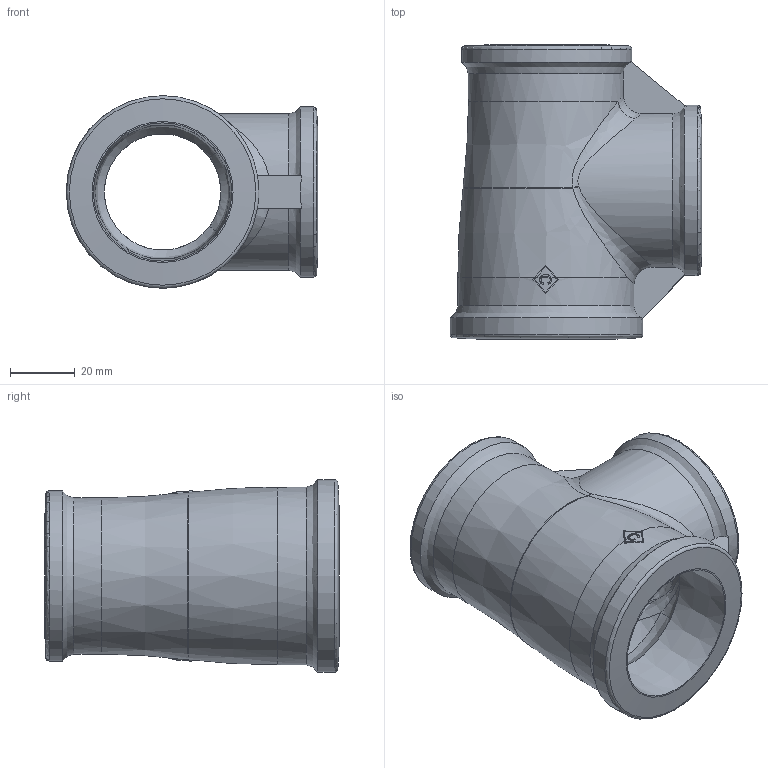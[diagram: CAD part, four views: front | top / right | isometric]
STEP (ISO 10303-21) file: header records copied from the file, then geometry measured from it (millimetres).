
FILE_DESCRIPTION((''),'2;1');
FILE_NAME('P:\Fastrack\53909_CRANE\Crane\Fig.161 Tee\New 1.50 inch\161-1.50x1.25x1.25.stp','2009-09-16T12:47:37',('btaylor'),(''),'Autodesk Inventor 2008','Autodesk Inventor 2008','');
FILE_SCHEMA(('AUTOMOTIVE_DESIGN { 1 0 10303 214 1 1 1 1 }'));
Length unit declared in the file: millimetre
Products named in the file (1): 161-1.50x1.25x1.25
Bounding box: 77.8 x 91 x 59.6 mm (x, y, z)
Volume: 88154.9 mm3; surface area: 35850.5 mm2
Topology: 1 solids, 1 shells, 83 faces, 248 edges, 166 vertices
Faces by surface type: bspline 40, plane 19, cylinder 13, cone 8, torus 3
Full cylindrical faces by diameter (mm): 52.7 x2, 59.6 x1
Entity records: 6795 total; most frequent: CARTESIAN_POINT 4790, ORIENTED_EDGE 464, DIRECTION 336, EDGE_CURVE 232, VERTEX_POINT 162, AXIS2_PLACEMENT_3D 149, EDGE_LOOP 98, B_SPLINE_CURVE_WITH_KNOTS 89
